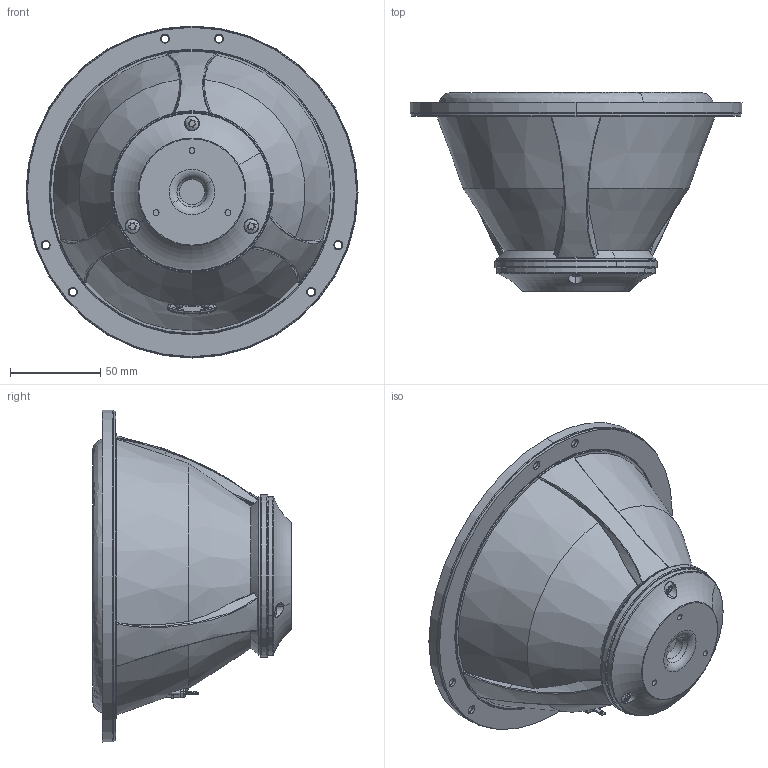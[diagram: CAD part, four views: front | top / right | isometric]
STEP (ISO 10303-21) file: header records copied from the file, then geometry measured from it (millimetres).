
FILE_DESCRIPTION (( 'STEP AP214' ), '1' );
FILE_NAME ('18WU-8747T00.STEP', '2020-11-09T11:30:13', ( '' ), ( '' ), 'SwSTEP 2.0', 'SolidWorks 2019', '' );
FILE_SCHEMA (( 'AUTOMOTIVE_DESIGN' ));
Length unit declared in the file: millimetre
Products named in the file (1): 18WU-8747T00
Bounding box: 184 x 110.25 x 184 mm (x, y, z)
Volume: 1086250 mm3; surface area: 122786.4 mm2
Topology: 1 solids, 9 shells, 649 faces, 1897 edges, 1217 vertices
Faces by surface type: cylinder 173, bspline 119, plane 117, cone 115, torus 111, sphere 14
Entity records: 43001 total; most frequent: CARTESIAN_POINT 20194, ORIENTED_EDGE 3790, DIRECTION 3105, EDGE_CURVE 1895, AXIS2_PLACEMENT_3D 1382, VERTEX_POINT 1217, CIRCLE 851, EDGE_LOOP 702
